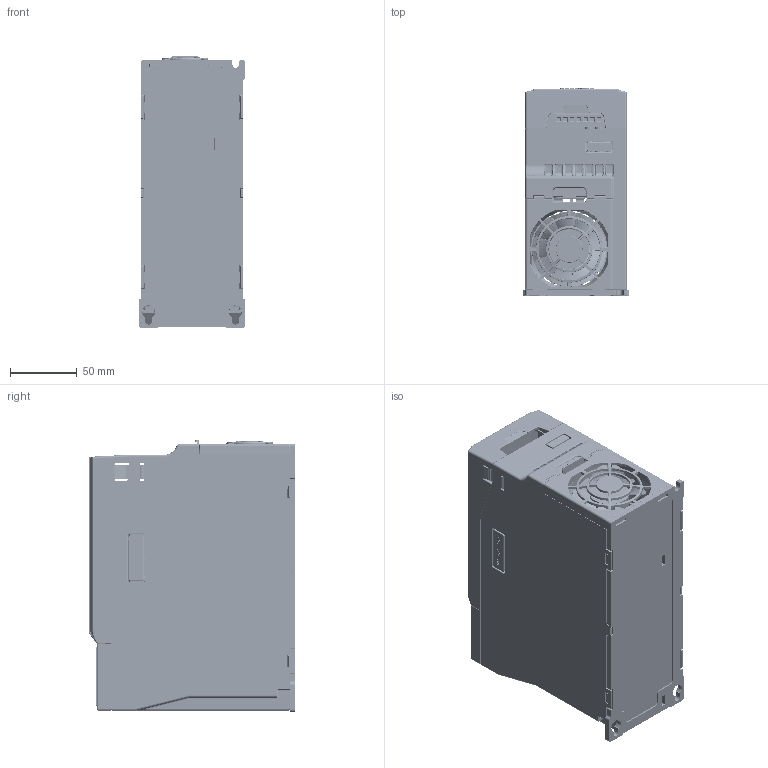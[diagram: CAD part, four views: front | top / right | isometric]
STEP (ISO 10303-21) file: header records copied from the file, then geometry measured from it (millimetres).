
FILE_DESCRIPTION(/* description */ (''),/* implementation_level */ '2;1');
FILE_NAME(/* name */ 'VF302C-B1-3d.step',/* time_stamp */ '2023-03-02T11:21:52+07:00',/* author */ (''),/* organization */ (''),/* preprocessor_version */ 'ST-DEVELOPER v19.2',/* originating_system */ 'Autodesk Translation Framework v11.17.0.187',/* authorisation */ '');
FILE_SCHEMA (('AUTOMOTIVE_DESIGN { 1 0 10303 214 3 1 1 }'));
Products named in the file (32): (Unsaved); VF302C-B1_ASM_146_ASM; D_ASM_31_ASM; VF302C-B1-P_ASM_23_ASM; P003_17_ASM; P004_ASM_30_ASM; VF302C-B1-H001_31; VF302C-B1-F001_15_ASM; F001_15_1; F001_15_2; F001_15_3; F001_15_4; F001_15_5; F001_15_6; F001_15_7; F001_15_8; F001_15_9; F001_15_10; F001_15_11; F001_15_12; F001_15_13; VF302C-B1-A-P_ASM_7_ASM; A-P002_7; A-P005_2; VEDAVFD; display (1); display; knopka_prg; knopka_ust_pusk; knopka_ust_stop; knopka_ust_vybor; knopka_up
Assembly tree (32 placements, depth 4):
  (Unsaved)
    VF302C-B1_ASM_146_ASM
      D_ASM_31_ASM
      VF302C-B1-P_ASM_23_ASM
        P003_17_ASM
        P004_ASM_30_ASM
      VF302C-B1-H001_31
      VF302C-B1-F001_15_ASM
        F001_15_1
        F001_15_2
        F001_15_3
        F001_15_4
        F001_15_5
        F001_15_6
        F001_15_7
        F001_15_8
        F001_15_9
        F001_15_10
        F001_15_11
        F001_15_12
        F001_15_13
      VF302C-B1-A-P_ASM_7_ASM
        A-P002_7
        A-P005_2
    VEDAVFD
    display (1)
      display
      knopka_prg
      knopka_up  x2
      knopka_ust_pusk
      knopka_ust_stop
      knopka_ust_vybor
Bounding box: 80 x 155.3 x 204 mm (x, y, z)
Volume: 485840.6 mm3; surface area: 446832.5 mm2
Topology: 82 solids, 87 shells, 15257 faces, 40562 edges, 26212 vertices
Faces by surface type: plane 9414, bspline 3393, cylinder 2058, torus 170, cone 162, sphere 60
Full cylindrical faces by diameter (mm): 0.1 x4, 0.2 x3, 0.3 x10, 0.4 x4, 0.445 x3, 0.45 x2, 0.5 x26, 0.6 x4, 0.635 x2, 0.762 x11, 0.8 x12, 0.9 x8, 1 x1, 1.5 x14, 1.6 x2, 1.75 x5, 2 x2, 2.1 x1, 2.5 x53, 2.6 x4, 2.849 x1, 3 x11, 3.3 x1, 3.5 x3, 3.8 x20, 4 x6, 4.1 x1, 4.4 x8, 4.6 x1, 4.7 x10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
Entity records: 543471 total; most frequent: CARTESIAN_POINT 173170, ORIENTED_EDGE 80916, DIRECTION 66883, EDGE_CURVE 40465, LINE 28149, VECTOR 28149, VERTEX_POINT 26182, AXIS2_PLACEMENT_3D 19367
